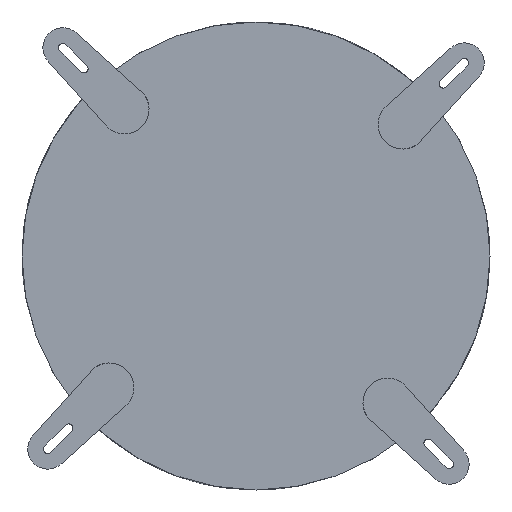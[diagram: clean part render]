
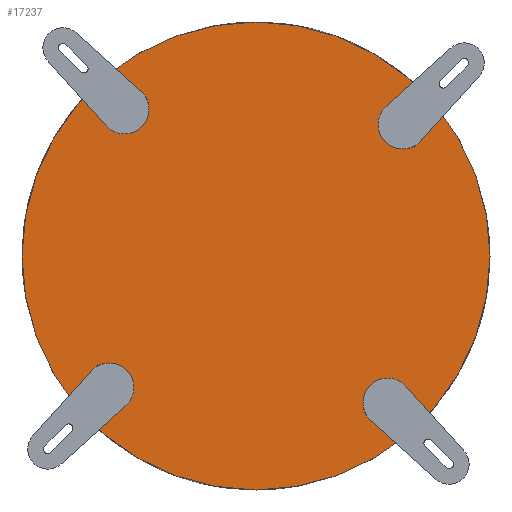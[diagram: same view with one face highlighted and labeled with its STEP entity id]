
A CAD part, front view. The second image highlights one B-rep face of the part: STEP entity #17237.
In plain terms, the highlighted planar face has unit normal (0, -1, 0).
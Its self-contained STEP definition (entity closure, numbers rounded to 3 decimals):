
#14 = AXIS2_PLACEMENT_3D ( 'NONE', #19396, #14708, #19214 ) ;
#157 = ORIENTED_EDGE ( 'NONE', *, *, #10272, .T. ) ;
#417 = VERTEX_POINT ( 'NONE', #3617 ) ;
#613 = VERTEX_POINT ( 'NONE', #22374 ) ;
#634 = FACE_BOUND ( 'NONE', #18331, .T. ) ;
#1129 = CARTESIAN_POINT ( 'NONE',  ( -142.287, -113.07, 104.959 ) ) ;
#1171 = DIRECTION ( 'NONE',  ( 0., 0., -1. ) ) ;
#1471 = AXIS2_PLACEMENT_3D ( 'NONE', #2847, #23211, #1171 ) ;
#1673 = VERTEX_POINT ( 'NONE', #26138 ) ;
#2117 = PLANE ( 'NONE',  #27466 ) ;
#2635 = ORIENTED_EDGE ( 'NONE', *, *, #28337, .F. ) ;
#2847 = CARTESIAN_POINT ( 'NONE',  ( 69.513, -113.07, 106.841 ) ) ;
#3617 = CARTESIAN_POINT ( 'NONE',  ( 71.394, -113.07, -133.243 ) ) ;
#3641 = CIRCLE ( 'NONE', #23742, 20. ) ;
#4936 = AXIS2_PLACEMENT_3D ( 'NONE', #13948, #14037, #16576 ) ;
#5083 = DIRECTION ( 'NONE',  ( 0., 0., -1. ) ) ;
#5836 = VERTEX_POINT ( 'NONE', #18650 ) ;
#5899 = FACE_BOUND ( 'NONE', #15681, .T. ) ;
#5994 = ORIENTED_EDGE ( 'NONE', *, *, #20624, .T. ) ;
#6000 = CARTESIAN_POINT ( 'NONE',  ( -182.832, -113.07, -120.983 ) ) ;
#6183 = VERTEX_POINT ( 'NONE', #15235 ) ;
#6371 = CIRCLE ( 'NONE', #14825, 20. ) ;
#6408 = EDGE_CURVE ( 'NONE', #613, #1673, #11713, .T. ) ;
#6619 = VERTEX_POINT ( 'NONE', #6000 ) ;
#7087 = CARTESIAN_POINT ( 'NONE',  ( -156.429, -113.07, 119.101 ) ) ;
#8082 = CARTESIAN_POINT ( 'NONE',  ( -156.429, -113.07, 119.101 ) ) ;
#8556 = DIRECTION ( 'NONE',  ( 0., 0., -1. ) ) ;
#8657 = ORIENTED_EDGE ( 'NONE', *, *, #15799, .T. ) ;
#8721 = CARTESIAN_POINT ( 'NONE',  ( -49.588, -113.07, 0. ) ) ;
#9921 = CARTESIAN_POINT ( 'NONE',  ( 43.11, -113.07, -104.959 ) ) ;
#10132 = DIRECTION ( 'NONE',  ( 0., 0., -1. ) ) ;
#10272 = EDGE_CURVE ( 'NONE', #11770, #6183, #18501, .T. ) ;
#10709 = DIRECTION ( 'NONE',  ( 0., -1., 0. ) ) ;
#10790 = CARTESIAN_POINT ( 'NONE',  ( 57.252, -113.07, -119.101 ) ) ;
#11713 = CIRCLE ( 'NONE', #4936, 20. ) ;
#11770 = VERTEX_POINT ( 'NONE', #23489 ) ;
#12295 = AXIS2_PLACEMENT_3D ( 'NONE', #8082, #21272, #10132 ) ;
#12802 = VERTEX_POINT ( 'NONE', #9921 ) ;
#13319 = ORIENTED_EDGE ( 'NONE', *, *, #6408, .T. ) ;
#13393 = CIRCLE ( 'NONE', #19127, 20. ) ;
#13443 = AXIS2_PLACEMENT_3D ( 'NONE', #17758, #24073, #28548 ) ;
#13687 = EDGE_CURVE ( 'NONE', #417, #12802, #28178, .T. ) ;
#13948 = CARTESIAN_POINT ( 'NONE',  ( 69.513, -113.07, 106.841 ) ) ;
#14037 = DIRECTION ( 'NONE',  ( 0., 1., 0. ) ) ;
#14290 = FACE_BOUND ( 'NONE', #23360, .T. ) ;
#14553 = ORIENTED_EDGE ( 'NONE', *, *, #23993, .F. ) ;
#14667 = EDGE_CURVE ( 'NONE', #6619, #26760, #13393, .T. ) ;
#14708 = DIRECTION ( 'NONE',  ( 0., -1., 0. ) ) ;
#14825 = AXIS2_PLACEMENT_3D ( 'NONE', #7087, #24908, #16103 ) ;
#14850 = CIRCLE ( 'NONE', #12295, 20. ) ;
#15041 = CIRCLE ( 'NONE', #14, 20. ) ;
#15235 = CARTESIAN_POINT ( 'NONE',  ( -49.588, -113.07, -190. ) ) ;
#15681 = EDGE_LOOP ( 'NONE', ( #14553, #17381 ) ) ;
#15799 = EDGE_CURVE ( 'NONE', #1673, #613, #25978, .T. ) ;
#16065 = FACE_OUTER_BOUND ( 'NONE', #22279, .T. ) ;
#16103 = DIRECTION ( 'NONE',  ( 0., 0., -1. ) ) ;
#16403 = AXIS2_PLACEMENT_3D ( 'NONE', #26898, #20405, #18227 ) ;
#16491 = ORIENTED_EDGE ( 'NONE', *, *, #13687, .F. ) ;
#16576 = DIRECTION ( 'NONE',  ( 0., 0., -1. ) ) ;
#17048 = CARTESIAN_POINT ( 'NONE',  ( -154.547, -113.07, -92.698 ) ) ;
#17077 = CIRCLE ( 'NONE', #16403, 190. ) ;
#17237 = ADVANCED_FACE ( 'NONE', ( #16065, #24462, #5899, #14290, #634 ), #2117, .T. ) ;
#17328 = DIRECTION ( 'NONE',  ( 0., -1., 0. ) ) ;
#17381 = ORIENTED_EDGE ( 'NONE', *, *, #28241, .F. ) ;
#17758 = CARTESIAN_POINT ( 'NONE',  ( 57.252, -113.07, -119.101 ) ) ;
#18227 = DIRECTION ( 'NONE',  ( 0., 0., -1. ) ) ;
#18331 = EDGE_LOOP ( 'NONE', ( #2635, #16491 ) ) ;
#18466 = CARTESIAN_POINT ( 'NONE',  ( -168.69, -113.07, -106.841 ) ) ;
#18501 = CIRCLE ( 'NONE', #25791, 190. ) ;
#18650 = CARTESIAN_POINT ( 'NONE',  ( -170.571, -113.07, 133.243 ) ) ;
#19127 = AXIS2_PLACEMENT_3D ( 'NONE', #18466, #21022, #5083 ) ;
#19214 = DIRECTION ( 'NONE',  ( 0., 0., -1. ) ) ;
#19396 = CARTESIAN_POINT ( 'NONE',  ( -168.69, -113.07, -106.841 ) ) ;
#20405 = DIRECTION ( 'NONE',  ( 0., -1., 0. ) ) ;
#20624 = EDGE_CURVE ( 'NONE', #6183, #11770, #17077, .T. ) ;
#21022 = DIRECTION ( 'NONE',  ( 0., -1., 0. ) ) ;
#21272 = DIRECTION ( 'NONE',  ( 0., -1., 0. ) ) ;
#22279 = EDGE_LOOP ( 'NONE', ( #5994, #157 ) ) ;
#22374 = CARTESIAN_POINT ( 'NONE',  ( 83.655, -113.07, 120.983 ) ) ;
#23211 = DIRECTION ( 'NONE',  ( 0., 1., 0. ) ) ;
#23360 = EDGE_LOOP ( 'NONE', ( #28573, #28949 ) ) ;
#23489 = CARTESIAN_POINT ( 'NONE',  ( -49.588, -113.07, 190. ) ) ;
#23742 = AXIS2_PLACEMENT_3D ( 'NONE', #10790, #17328, #24297 ) ;
#23993 = EDGE_CURVE ( 'NONE', #24566, #5836, #6371, .T. ) ;
#23996 = EDGE_LOOP ( 'NONE', ( #8657, #13319 ) ) ;
#24073 = DIRECTION ( 'NONE',  ( 0., -1., 0. ) ) ;
#24297 = DIRECTION ( 'NONE',  ( 0., 0., -1. ) ) ;
#24462 = FACE_BOUND ( 'NONE', #23996, .T. ) ;
#24566 = VERTEX_POINT ( 'NONE', #1129 ) ;
#24908 = DIRECTION ( 'NONE',  ( 0., -1., 0. ) ) ;
#25318 = EDGE_CURVE ( 'NONE', #26760, #6619, #15041, .T. ) ;
#25791 = AXIS2_PLACEMENT_3D ( 'NONE', #26372, #10709, #8556 ) ;
#25978 = CIRCLE ( 'NONE', #1471, 20. ) ;
#26138 = CARTESIAN_POINT ( 'NONE',  ( 55.371, -113.07, 92.698 ) ) ;
#26372 = CARTESIAN_POINT ( 'NONE',  ( -49.588, -113.07, 0. ) ) ;
#26630 = DIRECTION ( 'NONE',  ( 0., 0., -1. ) ) ;
#26760 = VERTEX_POINT ( 'NONE', #17048 ) ;
#26898 = CARTESIAN_POINT ( 'NONE',  ( -49.588, -113.07, 0. ) ) ;
#27466 = AXIS2_PLACEMENT_3D ( 'NONE', #8721, #28857, #26630 ) ;
#28178 = CIRCLE ( 'NONE', #13443, 20. ) ;
#28241 = EDGE_CURVE ( 'NONE', #5836, #24566, #14850, .T. ) ;
#28337 = EDGE_CURVE ( 'NONE', #12802, #417, #3641, .T. ) ;
#28548 = DIRECTION ( 'NONE',  ( 0., 0., -1. ) ) ;
#28573 = ORIENTED_EDGE ( 'NONE', *, *, #25318, .F. ) ;
#28857 = DIRECTION ( 'NONE',  ( 0., -1., 0. ) ) ;
#28949 = ORIENTED_EDGE ( 'NONE', *, *, #14667, .F. ) ;
